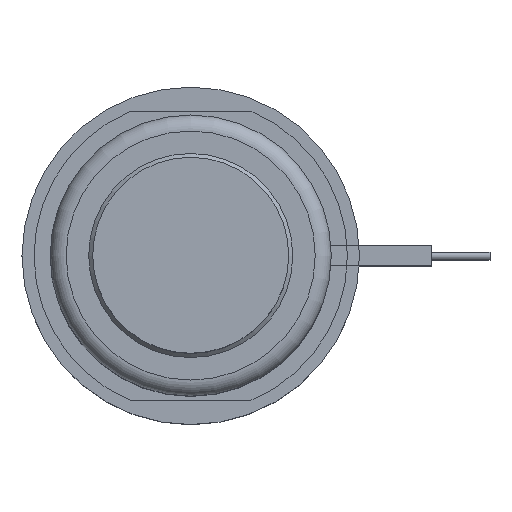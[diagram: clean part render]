
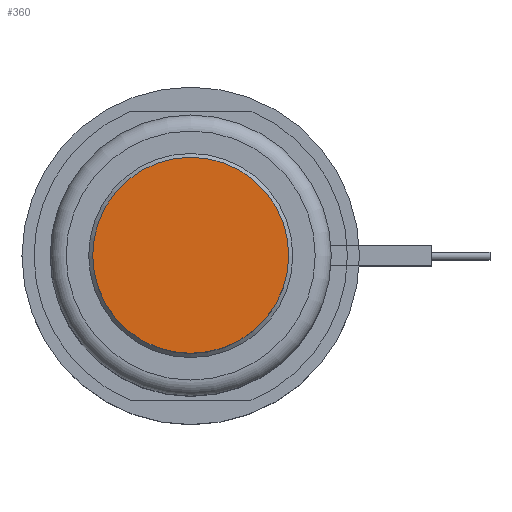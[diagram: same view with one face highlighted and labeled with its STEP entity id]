
A CAD part, top view. The second image highlights one B-rep face of the part: STEP entity #360.
In plain terms, the highlighted planar face has unit normal (0, 0, 1).
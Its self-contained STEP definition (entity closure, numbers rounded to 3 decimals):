
#360=ADVANCED_FACE('',(#489),#443,.F.);
#443=PLANE('',#1304);
#489=FACE_OUTER_BOUND('',#573,.T.);
#573=EDGE_LOOP('',(#715));
#715=ORIENTED_EDGE('',*,*,#1079,.F.);
#972=VERTEX_POINT('',#1867);
#1079=EDGE_CURVE('',#972,#972,#1213,.T.);
#1213=CIRCLE('',#1303,12.2);
#1303=AXIS2_PLACEMENT_3D('',#1866,#1500,#1501);
#1304=AXIS2_PLACEMENT_3D('',#1868,#1502,#1503);
#1500=DIRECTION('',(0.,0.,-1.));
#1501=DIRECTION('',(-1.,0.,0.));
#1502=DIRECTION('',(0.,0.,-1.));
#1503=DIRECTION('',(-1.,0.,0.));
#1866=CARTESIAN_POINT('',(0.,0.,18.));
#1867=CARTESIAN_POINT('',(-12.2,0.,18.));
#1868=CARTESIAN_POINT('',(0.,0.,18.));
